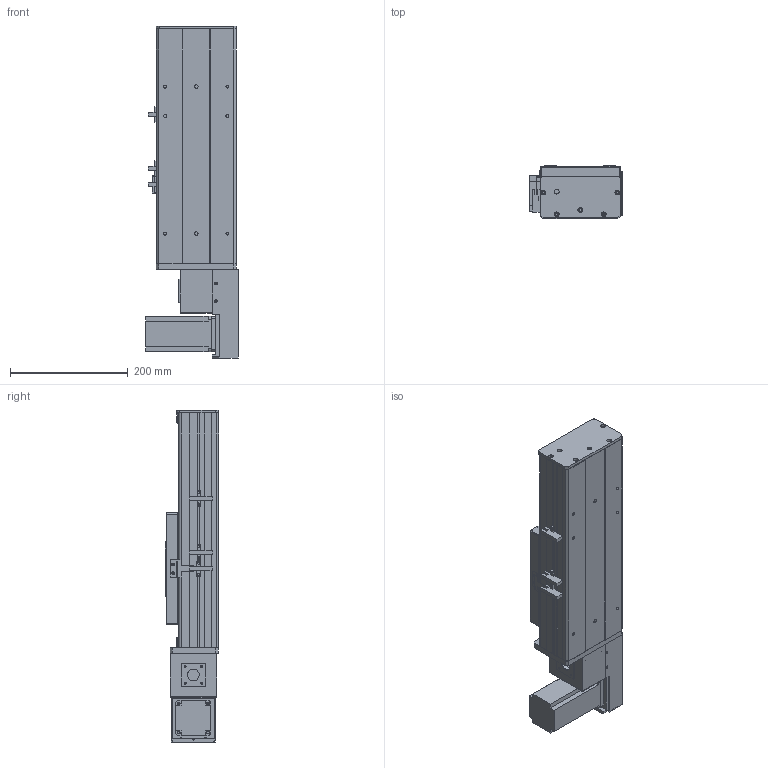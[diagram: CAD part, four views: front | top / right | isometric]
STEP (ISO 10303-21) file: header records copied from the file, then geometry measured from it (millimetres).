
FILE_DESCRIPTION (( 'STEP AP203' ), '1' );
FILE_NAME ('Y135CB-D90-S100-BL-P400W.STEP', '2020-02-17T07:52:40', ( '微软用户' ), ( '微软中国' ), 'SwSTEP 2.0', 'SolidWorks 2017', '' );
FILE_SCHEMA (( 'CONFIG_CONTROL_DESIGN' ));
Length unit declared in the file: millimetre
Products named in the file (18): 5CB --掛极耜裔啣-; 35CB---喘謫眊楊擘啣; C-詩湍揤踡え-陔; Y10B--々湍喘謫眊--666; 135CB--詩湍-CE; Y10B-耜蚾蟀諉啣----; Y100-135俋离換覜ん--; Y俋欶BR----; Y135C-陔俋离換覜結え-; 0B-埴倛裔啣; 5C--俋欶; 0B-源倛裔啣; C-雄赽釱--; 0B-萇儂楊擘啣; Y135CB-耜裔; Y135CB-D90-S100-BL-P400W; san松下电机400不带刹车----; 135CB---遴掛极.-
Assembly tree (21 placements, depth 2):
  Y135CB-D90-S100-BL-P400W
    Y135CB-耜裔
    135CB---遴掛极.-
    35CB---喘謫眊楊擘啣
    Y10B--々湍喘謫眊--666
    Y10B-耜蚾蟀諉啣----
    Y俋欶BR----
    0B-埴倛裔啣
    0B-源倛裔啣
    0B-萇儂楊擘啣
    san松下电机400不带刹车----
    5CB --掛极耜裔啣-  x2
    C-詩湍揤踡え-陔  x2
    135CB--詩湍-CE
    Y100-135俋离換覜ん--  x3
    Y135C-陔俋离換覜結え-
    5C--俋欶
    C-雄赽釱--
Bounding box: 157.5 x 91 x 564.5 mm (x, y, z)
Volume: 2049772 mm3; surface area: 779421.4 mm2
Topology: 21 solids, 21 shells, 941 faces, 2479 edges, 1642 vertices
Faces by surface type: cylinder 463, plane 462, cone 16
Entity records: 28853 total; most frequent: DIRECTION 4799, CARTESIAN_POINT 4688, ORIENTED_EDGE 4434, EDGE_CURVE 2217, AXIS2_PLACEMENT_3D 1745, VERTEX_POINT 1470, VECTOR 1309, LINE 1309
